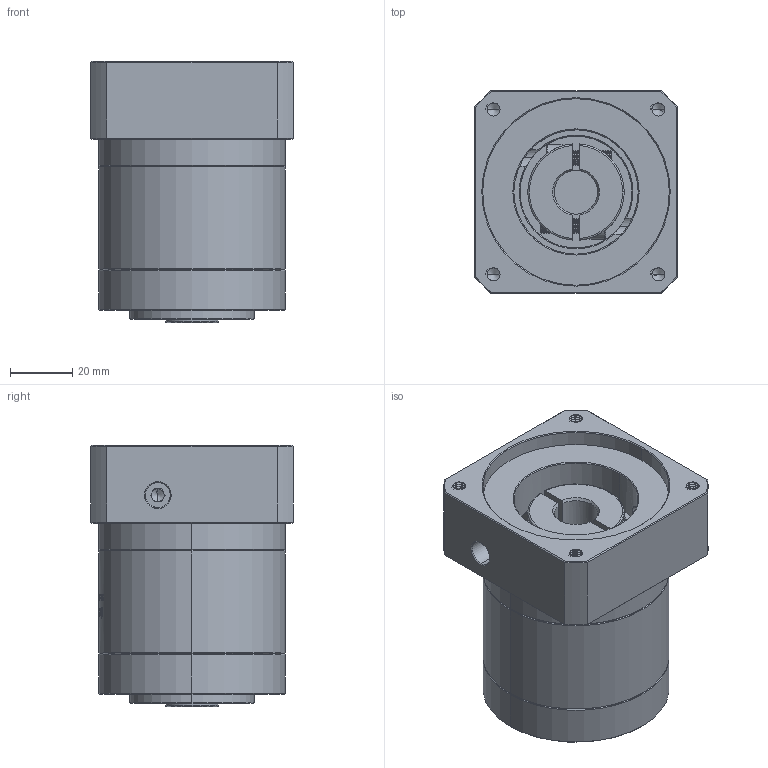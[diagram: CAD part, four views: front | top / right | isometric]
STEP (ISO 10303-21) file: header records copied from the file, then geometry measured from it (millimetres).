
FILE_DESCRIPTION (( 'STEP AP214' ), '1' );
FILE_NAME ('ZE60-K10-L1-14-60-75-M5.STEP', '2022-04-17T15:34:10', ( '' ), ( 'Microsoft' ), 'SwSTEP 2.0', 'SolidWorks 2016', '' );
FILE_SCHEMA (( 'AUTOMOTIVE_DESIGN' ));
Length unit declared in the file: millimetre
Products named in the file (1): ZE60-K10-L1-14-60-75-M5
Bounding box: 65 x 65 x 84 mm (x, y, z)
Volume: 218898 mm3; surface area: 44326.4 mm2
Topology: 6 solids, 6 shells, 1678 faces, 4567 edges, 2961 vertices
Faces by surface type: plane 730, cylinder 412, bspline 304, cone 214, torus 18
Entity records: 99069 total; most frequent: CARTESIAN_POINT 42456, ORIENTED_EDGE 9094, DIRECTION 6521, EDGE_CURVE 4547, VERTEX_POINT 2961, LINE 2303, VECTOR 2303, AXIS2_PLACEMENT_3D 2109
